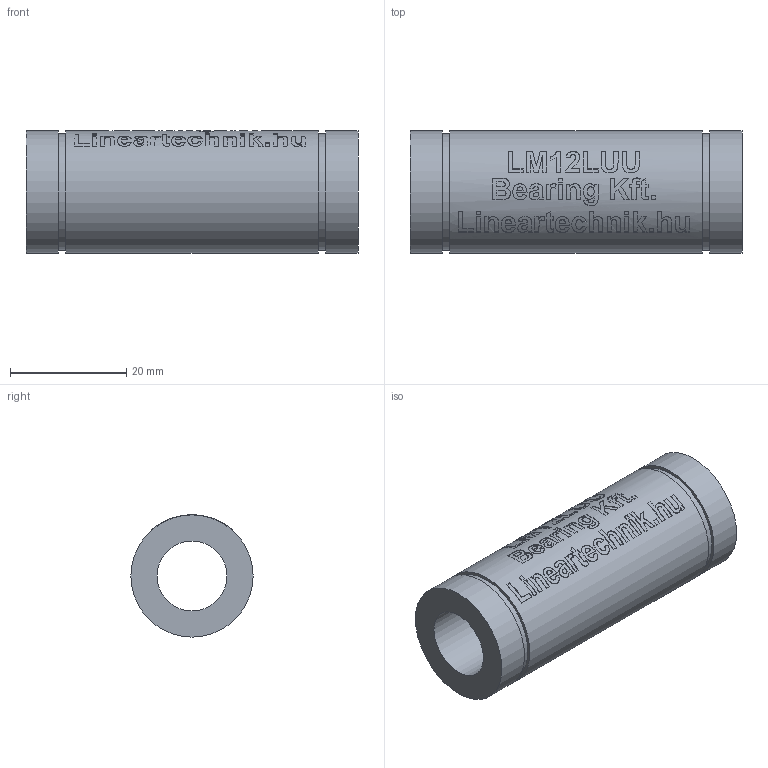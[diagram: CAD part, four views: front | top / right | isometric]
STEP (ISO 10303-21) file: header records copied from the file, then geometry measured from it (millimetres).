
FILE_DESCRIPTION(/* description */ (''),/* implementation_level */ '2;1');
FILE_NAME(/* name */ 'LM12LUU',/* time_stamp */ '2019-05-16T09:38:12+02:00',/* author */ ('VĂ©gh MĂˇtĂ©'),/* organization */ ('Bearing Kft'),/* preprocessor_version */ 'ST-DEVELOPER v16.7',/* originating_system */ 'DEX',/* authorisation */ $);
FILE_SCHEMA (('AUTOMOTIVE_DESIGN {1 0 10303 214 3 1 1}'));
Length unit declared in the file: millimetre
Products named in the file (1): LM12LUU
Bounding box: 57 x 21 x 21 mm (x, y, z)
Volume: 13197 mm3; surface area: 6544.8 mm2
Topology: 1 solids, 1 shells, 309 faces, 777 edges, 519 vertices
Faces by surface type: plane 165, bspline 93, cylinder 51
Full cylindrical faces by diameter (mm): 12 x1, 20 x2, 21 x3
Entity records: 18981 total; most frequent: CARTESIAN_POINT 12048, ORIENTED_EDGE 1536, DIRECTION 1163, EDGE_CURVE 768, VERTEX_POINT 517, LINE 427, VECTOR 427, AXIS2_PLACEMENT_3D 368
